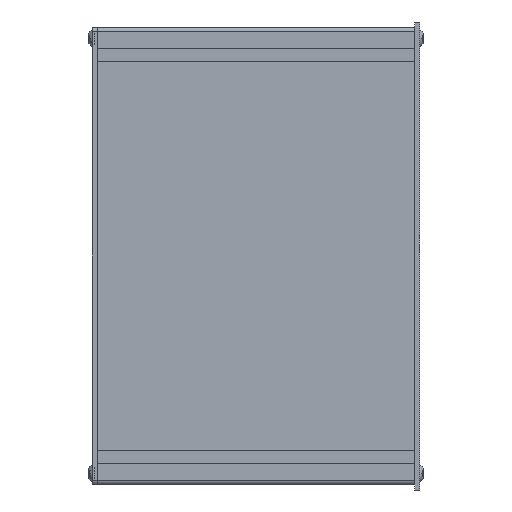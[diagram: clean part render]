
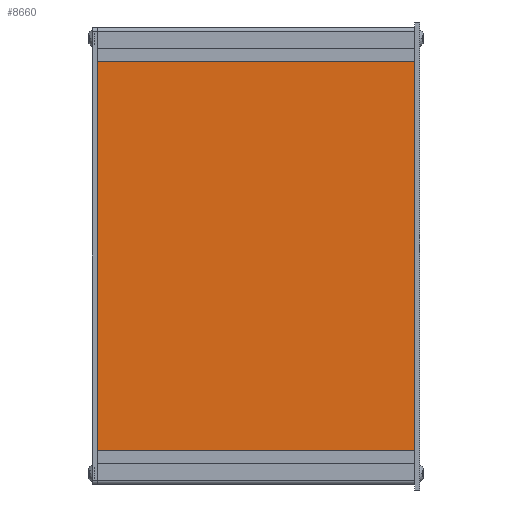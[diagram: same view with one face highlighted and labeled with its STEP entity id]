
A CAD part, left-side view. The second image highlights one B-rep face of the part: STEP entity #8660.
In plain terms, the highlighted planar face has unit normal (-1, 0, 0).
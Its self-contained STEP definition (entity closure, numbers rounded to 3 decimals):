
#952=PLANE('',#9524);
#1250=FACE_OUTER_BOUND('',#1790,.T.);
#1790=EDGE_LOOP('',(#6637,#6638,#6639,#6640));
#2564=LINE('',#13700,#3252);
#2574=LINE('',#13721,#3262);
#2575=LINE('',#13723,#3263);
#2576=LINE('',#13724,#3264);
#3252=VECTOR('',#10976,10.);
#3262=VECTOR('',#10994,10.);
#3263=VECTOR('',#10995,10.);
#3264=VECTOR('',#10996,10.);
#4260=VERTEX_POINT('',#13693);
#4263=VERTEX_POINT('',#13698);
#4270=VERTEX_POINT('',#13720);
#4271=VERTEX_POINT('',#13722);
#5115=EDGE_CURVE('',#4260,#4263,#2564,.T.);
#5125=EDGE_CURVE('',#4260,#4270,#2574,.T.);
#5126=EDGE_CURVE('',#4271,#4263,#2575,.T.);
#5127=EDGE_CURVE('',#4270,#4271,#2576,.T.);
#6637=ORIENTED_EDGE('',*,*,#5125,.F.);
#6638=ORIENTED_EDGE('',*,*,#5115,.T.);
#6639=ORIENTED_EDGE('',*,*,#5126,.F.);
#6640=ORIENTED_EDGE('',*,*,#5127,.F.);
#8660=ADVANCED_FACE('',(#1250),#952,.T.);
#9524=AXIS2_PLACEMENT_3D('',#13719,#10992,#10993);
#10976=DIRECTION('',(0.,1.,0.));
#10992=DIRECTION('center_axis',(-1.,0.,0.));
#10993=DIRECTION('ref_axis',(0.,0.,1.));
#10994=DIRECTION('',(0.,0.,-1.));
#10995=DIRECTION('',(0.,0.,1.));
#10996=DIRECTION('',(0.,1.,0.));
#13693=CARTESIAN_POINT('',(239.,0.,48.));
#13698=CARTESIAN_POINT('',(239.,150.,48.));
#13700=CARTESIAN_POINT('',(239.,0.,48.));
#13719=CARTESIAN_POINT('Origin',(239.,0.,-136.1));
#13720=CARTESIAN_POINT('',(239.,0.,-136.1));
#13721=CARTESIAN_POINT('',(239.,0.,-44.05));
#13722=CARTESIAN_POINT('',(239.,150.,-136.1));
#13723=CARTESIAN_POINT('',(239.,150.,-44.05));
#13724=CARTESIAN_POINT('',(239.,0.,-136.1));
